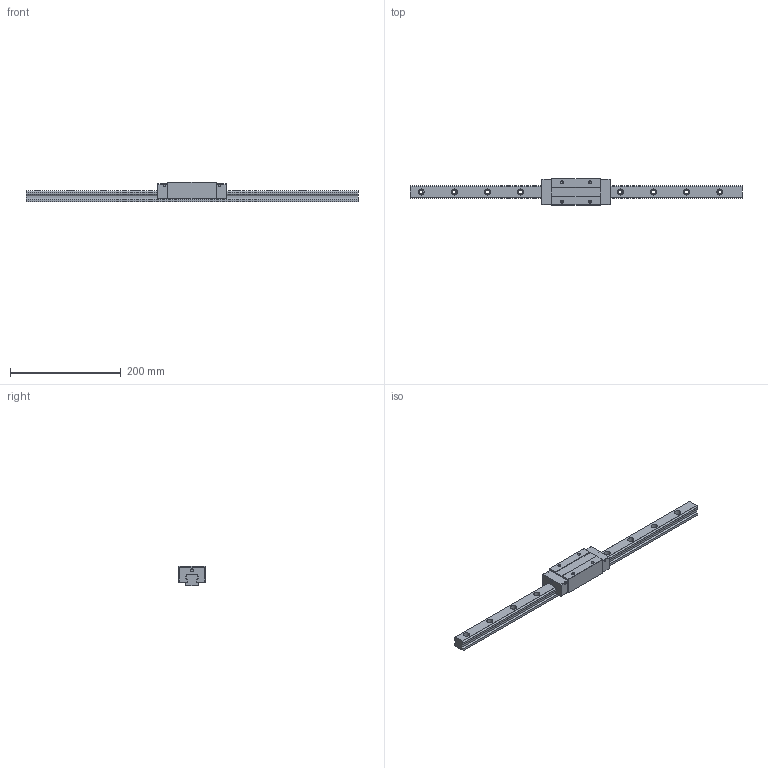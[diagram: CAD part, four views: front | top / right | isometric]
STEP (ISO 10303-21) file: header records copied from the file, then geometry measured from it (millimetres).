
FILE_DESCRIPTION (( 'STEP AP203' ), '1' );
FILE_NAME ('TRC25VE-SZ.STEP', '2024-06-13T01:36:28', ( '' ), ( '' ), 'SwSTEP 2.0', 'SolidWorks 2022', '' );
FILE_SCHEMA (( 'CONFIG_CONTROL_DESIGN' ));
Length unit declared in the file: millimetre
Products named in the file (1): TRC25VE-SZ
Bounding box: 600 x 48 x 36 mm (x, y, z)
Volume: 368072.1 mm3; surface area: 84950.2 mm2
Topology: 2 solids, 2 shells, 200 faces, 520 edges, 336 vertices
Faces by surface type: cylinder 96, plane 88, cone 16
Entity records: 6223 total; most frequent: DIRECTION 1114, CARTESIAN_POINT 1049, ORIENTED_EDGE 1024, EDGE_CURVE 512, AXIS2_PLACEMENT_3D 401, VERTEX_POINT 336, LINE 312, VECTOR 312
